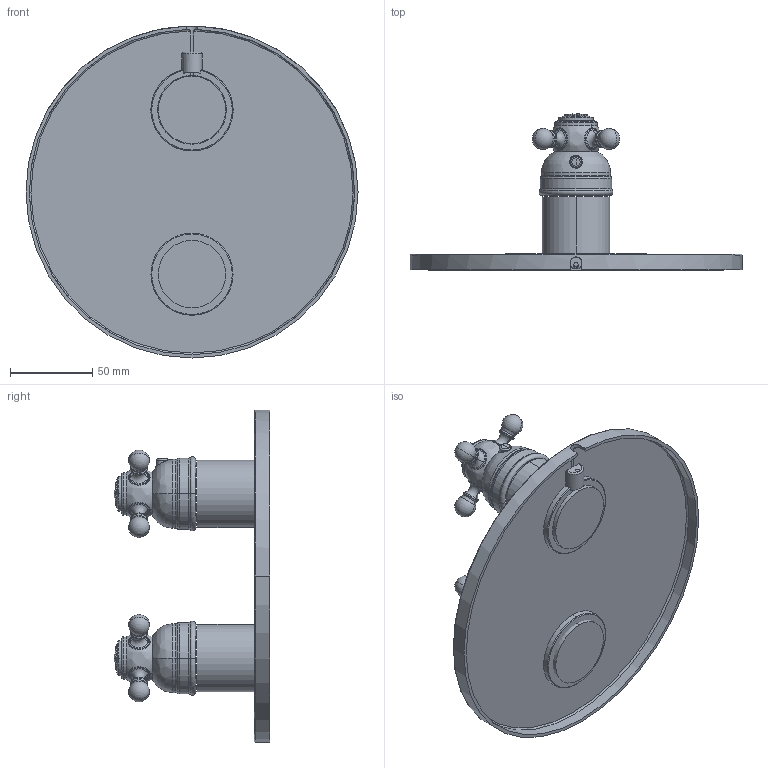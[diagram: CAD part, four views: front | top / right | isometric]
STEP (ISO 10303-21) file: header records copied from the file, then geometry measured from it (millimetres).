
FILE_DESCRIPTION((''),'2;1');
FILE_NAME('37706--00_SUB01_SW0001','2026-10-07T09:30:00',('simi1'),(''),'CREO PARAMETRIC BY PTC INC, 2022244','CREO PARAMETRIC BY PTC INC, 2022244','');
FILE_SCHEMA(('CONFIG_CONTROL_DESIGN'));
Length unit declared in the file: millimetre
Products named in the file (1): 37706--00_SUB01_SW0001
Bounding box: 202 x 94.85 x 202 mm (x, y, z)
Surface area: 109616.2 mm2 (no closed solid volume)
Topology: 0 solids, 18 shells, 263 faces, 587 edges, 315 vertices
Faces by surface type: torus 131, bspline 45, cylinder 41, sphere 22, plane 16, cone 8
Entity records: 9910 total; most frequent: CARTESIAN_POINT 4224, DIRECTION 1371, ORIENTED_EDGE 1082, AXIS2_PLACEMENT_3D 650, EDGE_CURVE 565, CIRCLE 432, VERTEX_POINT 315, EDGE_LOOP 263
